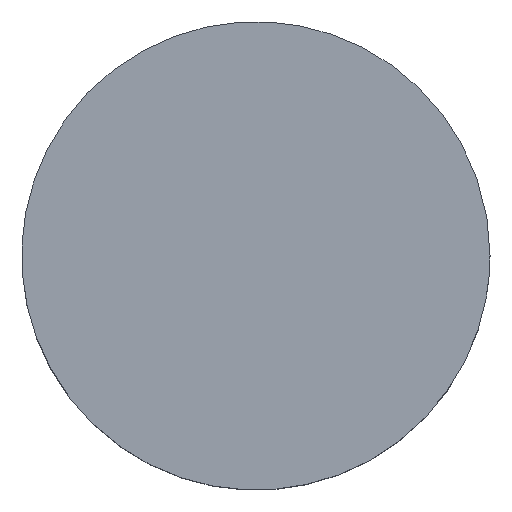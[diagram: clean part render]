
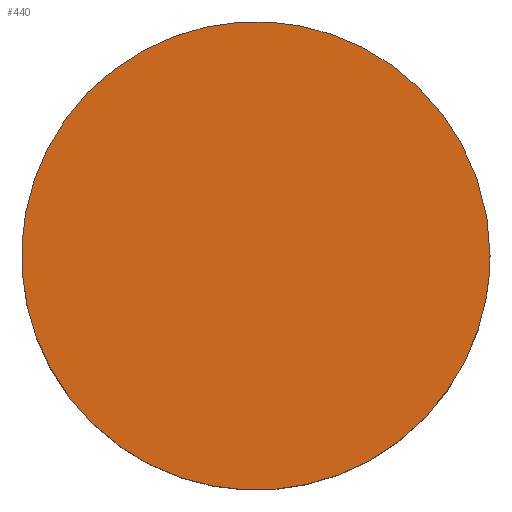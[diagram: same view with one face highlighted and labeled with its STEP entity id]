
A CAD part, top view. The second image highlights one B-rep face of the part: STEP entity #440.
In plain terms, the highlighted planar face has unit normal (0, 0, 1).
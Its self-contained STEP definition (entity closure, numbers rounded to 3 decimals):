
#230 = CARTESIAN_POINT ('', (1.5, 0., -90.6));
#240 = VERTEX_POINT ('', #230);
#250 = CARTESIAN_POINT ('', (1.5, 0., -90.6));
#260 = CARTESIAN_POINT ('', (1.5, 1.5, -90.6));
#270 = CARTESIAN_POINT ('', (0., 1.5, -90.6));
#280 = CARTESIAN_POINT ('', (-1.5, 1.5, -90.6));
#290 = CARTESIAN_POINT ('', (-1.5, 0., -90.6));
#300 = CARTESIAN_POINT ('', (-1.5, -1.5, -90.6));
#310 = CARTESIAN_POINT ('', (0., -1.5, -90.6));
#320 = CARTESIAN_POINT ('', (1.5, -1.5, -90.6));
#330 = CARTESIAN_POINT ('', (1.5, 0., -90.6));
#340 = (
   BOUNDED_CURVE ()
   B_SPLINE_CURVE (2, (#250, #260, #270, #280, #290, #300, #310, #320, #330), .UNSPECIFIED., .T., .U.)
   B_SPLINE_CURVE_WITH_KNOTS ((3, 2, 2, 2, 3), (0., 1.571, 3.142, 4.712, 6.283), .UNSPECIFIED.)
   CURVE ()
   GEOMETRIC_REPRESENTATION_ITEM ()
   RATIONAL_B_SPLINE_CURVE ((1., 0.707, 1., 0.707, 1., 0.707, 1., 0.707, 1.))
   REPRESENTATION_ITEM ('')
);
#350 = EDGE_CURVE ('', #240, #240, #340, .T.);
#360 = ORIENTED_EDGE ('', *, *, #350, .T.);
#370 = EDGE_LOOP ('', (#360));
#380 = FACE_OUTER_BOUND ('', #370, .T.);
#390 = CARTESIAN_POINT ('', (0., 3.264, -90.6));
#400 = DIRECTION ('', (0., 0., 1.));
#410 = DIRECTION ('', (-0.707, -0.707, 0.));
#420 = AXIS2_PLACEMENT_3D ('', #390, #400, #410);
#430 = PLANE ('', #420);
#440 = ADVANCED_FACE ('', (#380), #430, .T.);
